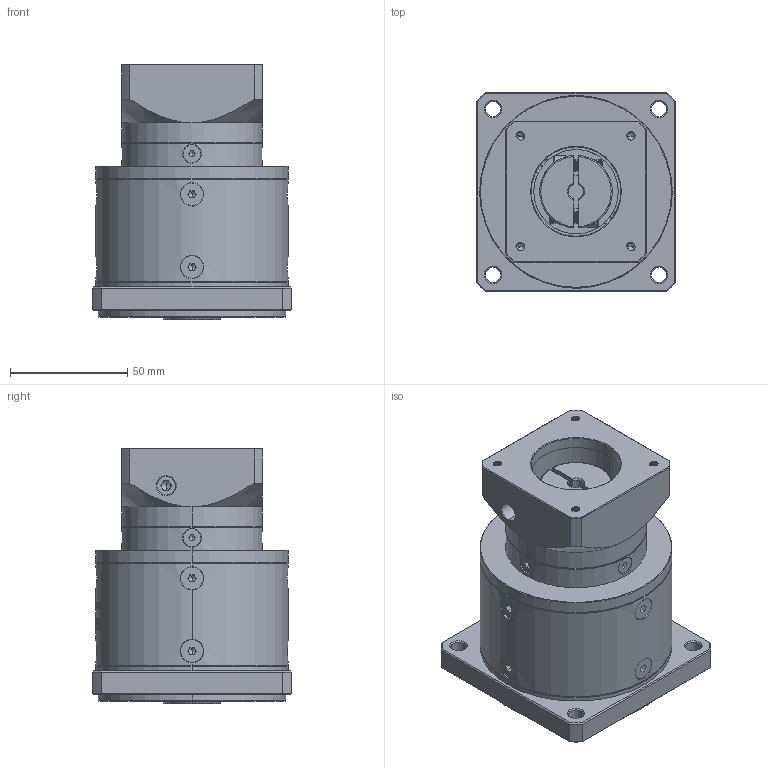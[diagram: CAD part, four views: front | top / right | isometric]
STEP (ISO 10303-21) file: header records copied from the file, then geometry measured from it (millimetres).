
FILE_DESCRIPTION (( 'STEP AP214' ), '1' );
FILE_NAME ('ZF80-K15-L2-6.35-38.1-47.14X47.14-M4.step', '2022-09-16T05:27:31', ( '' ), ( 'Microsoft' ), 'SwSTEP 2.0', 'SolidWorks 2016', '' );
FILE_SCHEMA (( 'AUTOMOTIVE_DESIGN' ));
Length unit declared in the file: millimetre
Products named in the file (1): ZF80-K15-L2-6.35-38.1-47.14X47.14-M4
Bounding box: 85 x 85 x 109 mm (x, y, z)
Volume: 458269.7 mm3; surface area: 66000.6 mm2
Topology: 18 solids, 18 shells, 1953 faces, 5112 edges, 3254 vertices
Faces by surface type: plane 941, cylinder 366, bspline 318, cone 314, torus 14
Entity records: 99218 total; most frequent: CARTESIAN_POINT 32898, ORIENTED_EDGE 10152, DIRECTION 8149, EDGE_CURVE 5076, VERTEX_POINT 3254, VECTOR 2759, LINE 2759, AXIS2_PLACEMENT_3D 2695
